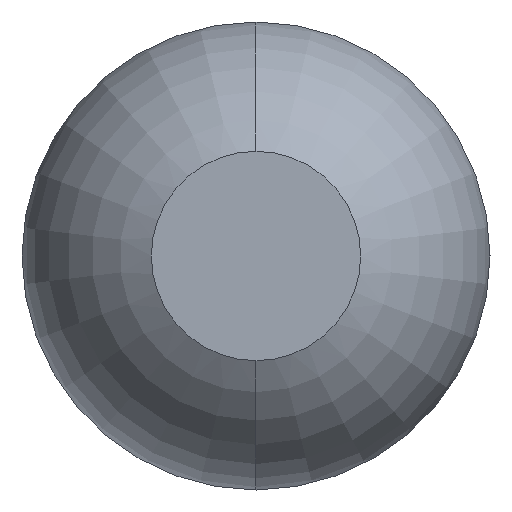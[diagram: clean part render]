
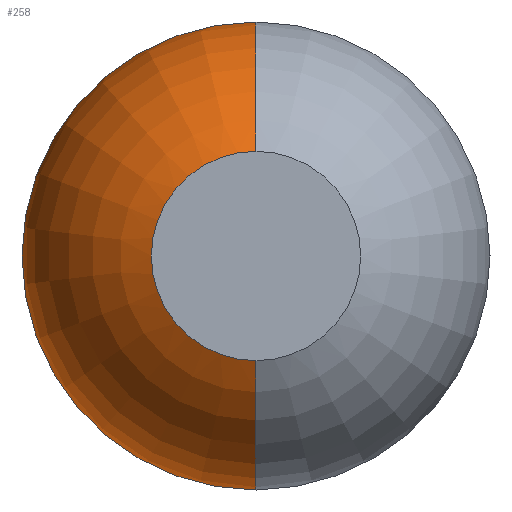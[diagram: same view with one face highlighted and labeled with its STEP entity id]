
A CAD part, left-side view. The second image highlights one B-rep face of the part: STEP entity #258.
In plain terms, the highlighted toroidal (fillet/blend) face has major radius 0.003 mm and minor radius 0.508 mm.
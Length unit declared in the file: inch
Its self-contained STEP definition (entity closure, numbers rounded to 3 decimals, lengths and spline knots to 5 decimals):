
#10 = DIRECTION ( 'NONE',  ( 0., 0., -1. ) ) ;
#31 = ORIENTED_EDGE ( 'NONE', *, *, #309, .T. ) ;
#52 = DIRECTION ( 'NONE',  ( 1., 0., 0. ) ) ;
#89 = CARTESIAN_POINT ( 'NONE',  ( 0.01792, 0., 0. ) ) ;
#111 = CARTESIAN_POINT ( 'NONE',  ( 0.01792, 0., 0. ) ) ;
#112 = VERTEX_POINT ( 'NONE', #465 ) ;
#131 = CARTESIAN_POINT ( 'NONE',  ( 0.01792, 0., -0.00012 ) ) ;
#169 = DIRECTION ( 'NONE',  ( 1., 0., 0. ) ) ;
#171 = EDGE_LOOP ( 'NONE', ( #312, #31, #482, #375 ) ) ;
#195 = CIRCLE ( 'NONE', #472, 0.02012 ) ;
#214 = EDGE_CURVE ( 'NONE', #112, #612, #394, .T. ) ;
#218 = CARTESIAN_POINT ( 'NONE',  ( 0.01792, 0., -0.02012 ) ) ;
#243 = FACE_OUTER_BOUND ( 'NONE', #171, .T. ) ;
#252 = CARTESIAN_POINT ( 'NONE',  ( 0.01792, 0., 0.00012 ) ) ;
#258 = ADVANCED_FACE ( 'NONE', ( #243 ), #432, .T. ) ;
#281 = DIRECTION ( 'NONE',  ( 0., 0., -1. ) ) ;
#308 = DIRECTION ( 'NONE',  ( 0., 0., -1. ) ) ;
#309 = EDGE_CURVE ( 'NONE', #612, #683, #716, .T. ) ;
#312 = ORIENTED_EDGE ( 'NONE', *, *, #214, .T. ) ;
#334 = AXIS2_PLACEMENT_3D ( 'NONE', #252, #611, #677 ) ;
#355 = AXIS2_PLACEMENT_3D ( 'NONE', #111, #169, #10 ) ;
#356 = CARTESIAN_POINT ( 'NONE',  ( 0.01792, 0., 0.02012 ) ) ;
#370 = AXIS2_PLACEMENT_3D ( 'NONE', #131, #563, #497 ) ;
#375 = ORIENTED_EDGE ( 'NONE', *, *, #439, .F. ) ;
#392 = CARTESIAN_POINT ( 'NONE',  ( 0., 0., 0.009 ) ) ;
#394 = CIRCLE ( 'NONE', #461, 0.009 ) ;
#417 = CARTESIAN_POINT ( 'NONE',  ( 0., 0., 0. ) ) ;
#432 = TOROIDAL_SURFACE ( 'NONE', #355, 0.00012, 0.02 ) ;
#439 = EDGE_CURVE ( 'NONE', #112, #541, #703, .T. ) ;
#461 = AXIS2_PLACEMENT_3D ( 'NONE', #417, #52, #308 ) ;
#465 = CARTESIAN_POINT ( 'NONE',  ( 0., 0., -0.009 ) ) ;
#472 = AXIS2_PLACEMENT_3D ( 'NONE', #89, #578, #281 ) ;
#482 = ORIENTED_EDGE ( 'NONE', *, *, #504, .F. ) ;
#497 = DIRECTION ( 'NONE',  ( 0., 0., -1. ) ) ;
#504 = EDGE_CURVE ( 'NONE', #541, #683, #195, .T. ) ;
#541 = VERTEX_POINT ( 'NONE', #218 ) ;
#563 = DIRECTION ( 'NONE',  ( 0., -1., 0. ) ) ;
#578 = DIRECTION ( 'NONE',  ( 1., 0., 0. ) ) ;
#611 = DIRECTION ( 'NONE',  ( 0., 1., 0. ) ) ;
#612 = VERTEX_POINT ( 'NONE', #392 ) ;
#677 = DIRECTION ( 'NONE',  ( 0., 0., 1. ) ) ;
#683 = VERTEX_POINT ( 'NONE', #356 ) ;
#703 = CIRCLE ( 'NONE', #370, 0.02 ) ;
#716 = CIRCLE ( 'NONE', #334, 0.02 ) ;
